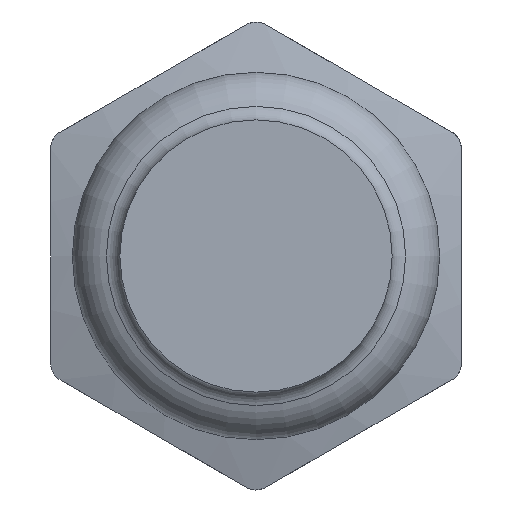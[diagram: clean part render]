
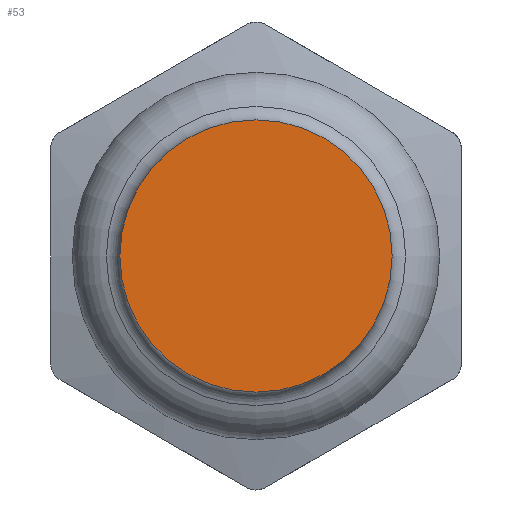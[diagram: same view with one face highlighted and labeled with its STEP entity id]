
A CAD part, front view. The second image highlights one B-rep face of the part: STEP entity #53.
In plain terms, the highlighted planar face has unit normal (0, -1, 0).
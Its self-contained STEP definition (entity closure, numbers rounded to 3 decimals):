
#53=ADVANCED_FACE('',(#78),#80,.T.);
#78=FACE_BOUND('',#79,.T.);
#79=EDGE_LOOP('',(#275));
#80=PLANE('',#81);
#81=AXIS2_PLACEMENT_3D('',#82,#83,#84);
#82=CARTESIAN_POINT('',(0.,0.,0.));
#83=DIRECTION('',(0.,-1.,0.));
#84=DIRECTION('',(0.,0.,1.));
#275=ORIENTED_EDGE('',*,*,#375,.F.);
#375=EDGE_CURVE('',#425,#425,#426,.T.);
#425=VERTEX_POINT('',#513);
#426=CIRCLE('',#514,7.3);
#513=CARTESIAN_POINT('',(0.,0.,7.3));
#514=AXIS2_PLACEMENT_3D('',#515,#516,#517);
#515=CARTESIAN_POINT('',(0.,0.,0.));
#516=DIRECTION('',(0.,1.,0.));
#517=DIRECTION('',(0.,0.,1.));
